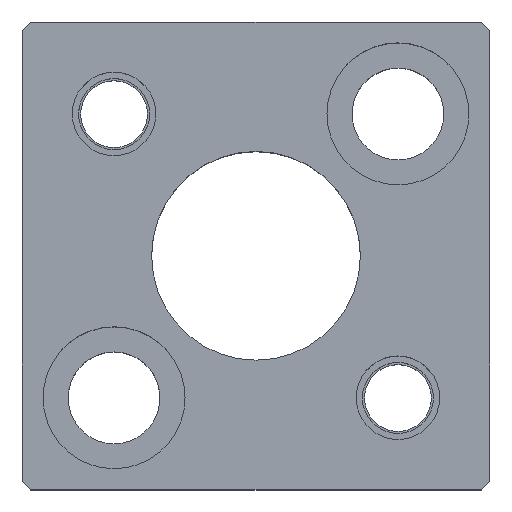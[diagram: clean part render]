
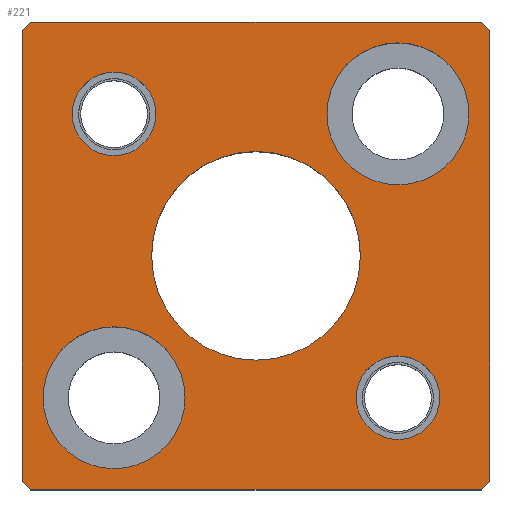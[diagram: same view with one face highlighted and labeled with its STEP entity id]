
A CAD part, top view. The second image highlights one B-rep face of the part: STEP entity #221.
In plain terms, the highlighted planar face has unit normal (0, 0, 1).
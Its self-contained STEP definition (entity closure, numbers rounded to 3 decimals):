
#103=FACE_BOUND('',#329,.T.);
#104=FACE_BOUND('',#330,.T.);
#105=FACE_BOUND('',#331,.T.);
#106=FACE_BOUND('',#332,.T.);
#107=FACE_BOUND('',#333,.T.);
#108=FACE_BOUND('',#334,.T.);
#157=CIRCLE('',#928,8.5);
#159=CIRCLE('',#931,8.5);
#161=CIRCLE('',#935,8.5);
#163=CIRCLE('',#938,8.5);
#165=CIRCLE('',#942,5.);
#166=CIRCLE('',#943,5.);
#167=CIRCLE('',#944,5.);
#168=CIRCLE('',#945,5.);
#169=CIRCLE('',#946,12.5);
#170=CIRCLE('',#947,12.5);
#221=ADVANCED_FACE('',(#103,#104,#105,#106,#107,#108),#260,.T.);
#260=PLANE('',#948);
#329=EDGE_LOOP('',(#469,#470,#471,#472,#473,#474,#475,#476));
#330=EDGE_LOOP('',(#477,#478));
#331=EDGE_LOOP('',(#479,#480));
#332=EDGE_LOOP('',(#481,#482));
#333=EDGE_LOOP('',(#483,#484));
#334=EDGE_LOOP('',(#485,#486));
#469=ORIENTED_EDGE('',*,*,#683,.T.);
#470=ORIENTED_EDGE('',*,*,#680,.T.);
#471=ORIENTED_EDGE('',*,*,#698,.T.);
#472=ORIENTED_EDGE('',*,*,#695,.T.);
#473=ORIENTED_EDGE('',*,*,#692,.T.);
#474=ORIENTED_EDGE('',*,*,#676,.T.);
#475=ORIENTED_EDGE('',*,*,#673,.T.);
#476=ORIENTED_EDGE('',*,*,#669,.T.);
#477=ORIENTED_EDGE('',*,*,#727,.F.);
#478=ORIENTED_EDGE('',*,*,#728,.F.);
#479=ORIENTED_EDGE('',*,*,#729,.F.);
#480=ORIENTED_EDGE('',*,*,#730,.F.);
#481=ORIENTED_EDGE('',*,*,#725,.F.);
#482=ORIENTED_EDGE('',*,*,#721,.F.);
#483=ORIENTED_EDGE('',*,*,#719,.F.);
#484=ORIENTED_EDGE('',*,*,#715,.F.);
#485=ORIENTED_EDGE('',*,*,#731,.T.);
#486=ORIENTED_EDGE('',*,*,#732,.T.);
#595=VERTEX_POINT('',#1264);
#596=VERTEX_POINT('',#1266);
#599=VERTEX_POINT('',#1274);
#601=VERTEX_POINT('',#1280);
#604=VERTEX_POINT('',#1287);
#605=VERTEX_POINT('',#1289);
#612=VERTEX_POINT('',#1312);
#614=VERTEX_POINT('',#1318);
#625=VERTEX_POINT('',#1357);
#626=VERTEX_POINT('',#1358);
#629=VERTEX_POINT('',#1370);
#630=VERTEX_POINT('',#1371);
#633=VERTEX_POINT('',#1383);
#634=VERTEX_POINT('',#1384);
#635=VERTEX_POINT('',#1387);
#636=VERTEX_POINT('',#1388);
#637=VERTEX_POINT('',#1391);
#638=VERTEX_POINT('',#1392);
#669=EDGE_CURVE('',#596,#595,#781,.T.);
#673=EDGE_CURVE('',#599,#596,#785,.T.);
#676=EDGE_CURVE('',#601,#599,#788,.T.);
#680=EDGE_CURVE('',#605,#604,#792,.T.);
#683=EDGE_CURVE('',#595,#605,#795,.T.);
#692=EDGE_CURVE('',#612,#601,#804,.T.);
#695=EDGE_CURVE('',#614,#612,#807,.T.);
#698=EDGE_CURVE('',#604,#614,#810,.T.);
#715=EDGE_CURVE('',#625,#626,#157,.T.);
#719=EDGE_CURVE('',#626,#625,#159,.T.);
#721=EDGE_CURVE('',#629,#630,#161,.T.);
#725=EDGE_CURVE('',#630,#629,#163,.T.);
#727=EDGE_CURVE('',#633,#634,#165,.T.);
#728=EDGE_CURVE('',#634,#633,#166,.T.);
#729=EDGE_CURVE('',#635,#636,#167,.T.);
#730=EDGE_CURVE('',#636,#635,#168,.T.);
#731=EDGE_CURVE('',#637,#638,#169,.T.);
#732=EDGE_CURVE('',#638,#637,#170,.T.);
#781=LINE('',#1265,#843);
#785=LINE('',#1273,#847);
#788=LINE('',#1279,#850);
#792=LINE('',#1288,#854);
#795=LINE('',#1294,#857);
#804=LINE('',#1311,#866);
#807=LINE('',#1317,#869);
#810=LINE('',#1323,#872);
#843=VECTOR('',#1005,1.);
#847=VECTOR('',#1011,1.);
#850=VECTOR('',#1016,1.);
#854=VECTOR('',#1022,1.);
#857=VECTOR('',#1027,1.);
#866=VECTOR('',#1042,1.);
#869=VECTOR('',#1047,1.);
#872=VECTOR('',#1052,1.);
#928=AXIS2_PLACEMENT_3D('',#1356,#1091,#1092);
#931=AXIS2_PLACEMENT_3D('',#1365,#1099,#1100);
#935=AXIS2_PLACEMENT_3D('',#1369,#1107,#1108);
#938=AXIS2_PLACEMENT_3D('',#1378,#1115,#1116);
#942=AXIS2_PLACEMENT_3D('',#1382,#1123,#1124);
#943=AXIS2_PLACEMENT_3D('',#1385,#1125,#1126);
#944=AXIS2_PLACEMENT_3D('',#1386,#1127,#1128);
#945=AXIS2_PLACEMENT_3D('',#1389,#1129,#1130);
#946=AXIS2_PLACEMENT_3D('',#1390,#1131,#1132);
#947=AXIS2_PLACEMENT_3D('',#1393,#1133,#1134);
#948=AXIS2_PLACEMENT_3D('',#1394,#1135,#1136);
#1005=DIRECTION('',(1.,0.,0.));
#1011=DIRECTION('',(0.707,-0.707,0.));
#1016=DIRECTION('',(0.,-1.,0.));
#1022=DIRECTION('',(0.,1.,0.));
#1027=DIRECTION('',(0.707,0.707,0.));
#1042=DIRECTION('',(-0.707,-0.707,0.));
#1047=DIRECTION('',(-1.,0.,0.));
#1052=DIRECTION('',(-0.707,0.707,0.));
#1091=DIRECTION('',(0.,0.,1.));
#1092=DIRECTION('',(-1.,0.,0.));
#1099=DIRECTION('',(0.,0.,1.));
#1100=DIRECTION('',(1.,0.,0.));
#1107=DIRECTION('',(0.,0.,1.));
#1108=DIRECTION('',(-1.,0.,0.));
#1115=DIRECTION('',(0.,0.,1.));
#1116=DIRECTION('',(1.,0.,0.));
#1123=DIRECTION('',(0.,0.,1.));
#1124=DIRECTION('',(1.,0.,0.));
#1125=DIRECTION('',(0.,0.,1.));
#1126=DIRECTION('',(-1.,0.,0.));
#1127=DIRECTION('',(0.,0.,1.));
#1128=DIRECTION('',(1.,0.,0.));
#1129=DIRECTION('',(0.,0.,1.));
#1130=DIRECTION('',(-1.,0.,0.));
#1131=DIRECTION('',(0.,0.,-1.));
#1132=DIRECTION('',(-1.,0.,0.));
#1133=DIRECTION('',(0.,0.,-1.));
#1134=DIRECTION('',(1.,0.,0.));
#1135=DIRECTION('',(0.,0.,1.));
#1136=DIRECTION('',(-1.,0.,0.));
#1264=CARTESIAN_POINT('',(27.,-28.,30.));
#1265=CARTESIAN_POINT('',(-27.,-28.,30.));
#1266=CARTESIAN_POINT('',(-27.,-28.,30.));
#1273=CARTESIAN_POINT('',(-27.,-28.,30.));
#1274=CARTESIAN_POINT('',(-28.,-27.,30.));
#1279=CARTESIAN_POINT('',(-28.,27.,30.));
#1280=CARTESIAN_POINT('',(-28.,27.,30.));
#1287=CARTESIAN_POINT('',(28.,27.,30.));
#1288=CARTESIAN_POINT('',(28.,27.,30.));
#1289=CARTESIAN_POINT('',(28.,-27.,30.));
#1294=CARTESIAN_POINT('',(28.,-27.,30.));
#1311=CARTESIAN_POINT('',(-28.,27.,30.));
#1312=CARTESIAN_POINT('',(-27.,28.,30.));
#1317=CARTESIAN_POINT('',(-27.,28.,30.));
#1318=CARTESIAN_POINT('',(27.,28.,30.));
#1323=CARTESIAN_POINT('',(27.,28.,30.));
#1356=CARTESIAN_POINT('',(-17.,-17.,30.));
#1357=CARTESIAN_POINT('',(-17.,-25.5,30.));
#1358=CARTESIAN_POINT('',(-17.,-8.5,30.));
#1365=CARTESIAN_POINT('',(-17.,-17.,30.));
#1369=CARTESIAN_POINT('',(17.,17.,30.));
#1370=CARTESIAN_POINT('',(17.,8.5,30.));
#1371=CARTESIAN_POINT('',(17.,25.5,30.));
#1378=CARTESIAN_POINT('',(17.,17.,30.));
#1382=CARTESIAN_POINT('',(-17.,17.,30.));
#1383=CARTESIAN_POINT('',(-17.,22.,30.));
#1384=CARTESIAN_POINT('',(-17.,12.,30.));
#1385=CARTESIAN_POINT('',(-17.,17.,30.));
#1386=CARTESIAN_POINT('',(17.,-17.,30.));
#1387=CARTESIAN_POINT('',(17.,-12.,30.));
#1388=CARTESIAN_POINT('',(17.,-22.,30.));
#1389=CARTESIAN_POINT('',(17.,-17.,30.));
#1390=CARTESIAN_POINT('',(0.,0.,30.));
#1391=CARTESIAN_POINT('',(0.,12.5,30.));
#1392=CARTESIAN_POINT('',(0.,-12.5,30.));
#1393=CARTESIAN_POINT('',(0.,0.,30.));
#1394=CARTESIAN_POINT('',(27.,-28.,30.));
